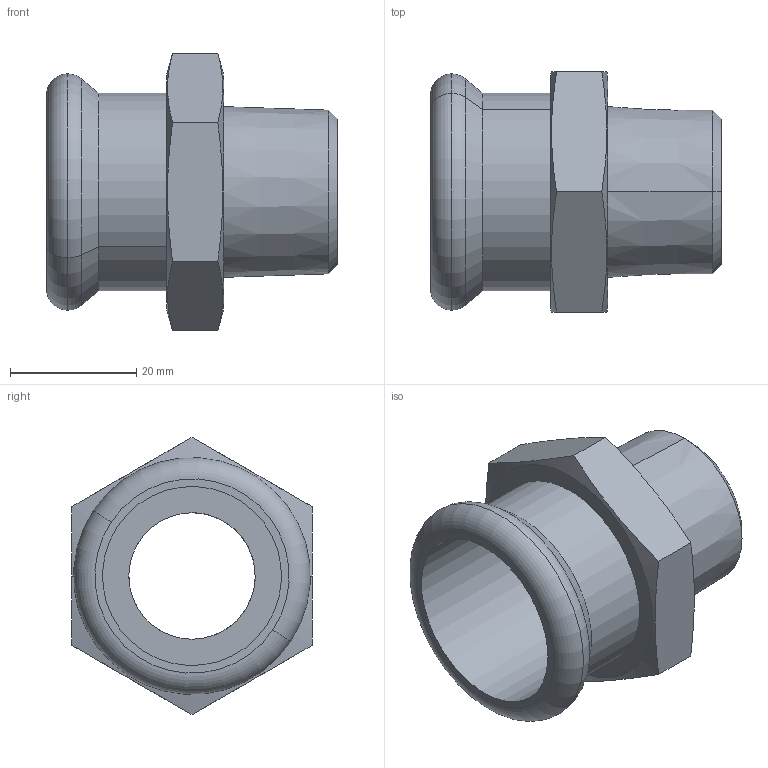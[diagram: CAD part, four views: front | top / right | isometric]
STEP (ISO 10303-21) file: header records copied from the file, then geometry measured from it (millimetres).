
FILE_DESCRIPTION(('CoCreate Modeling STEP Export'),'2;1');
FILE_NAME('C1405 28xR3-4.stp','2014-11-07T14:21:08',(''),(''),'CoCreate Modeling STEP processor for AP214 (Solid Model)','CoCreate Modeling 17.00A 17-Jun-2010 (C) Parametric Technology GmbH','');
FILE_SCHEMA(('AUTOMOTIVE_DESIGN { 1 0 10303 214 1 1 1 1 }'));
Length unit declared in the file: millimetre
Products named in the file (2): C1405_28xR3-4
Assembly tree (1 placements, depth 2):
  C1405_28xR3-4
    C1405_28xR3-4
Bounding box: 46 x 38 x 43.88 mm (x, y, z)
Volume: 15681.5 mm3; surface area: 10089.1 mm2
Topology: 1 solids, 1 shells, 31 faces, 74 edges, 48 vertices
Faces by surface type: plane 11, cone 10, cylinder 6, torus 4
Entity records: 1622 total; most frequent: CARTESIAN_POINT 948, ORIENTED_EDGE 148, DIRECTION 102, EDGE_CURVE 74, VERTEX_POINT 48, AXIS2_PLACEMENT_3D 40, EDGE_LOOP 36, FACE_OUTER_BOUND 31
